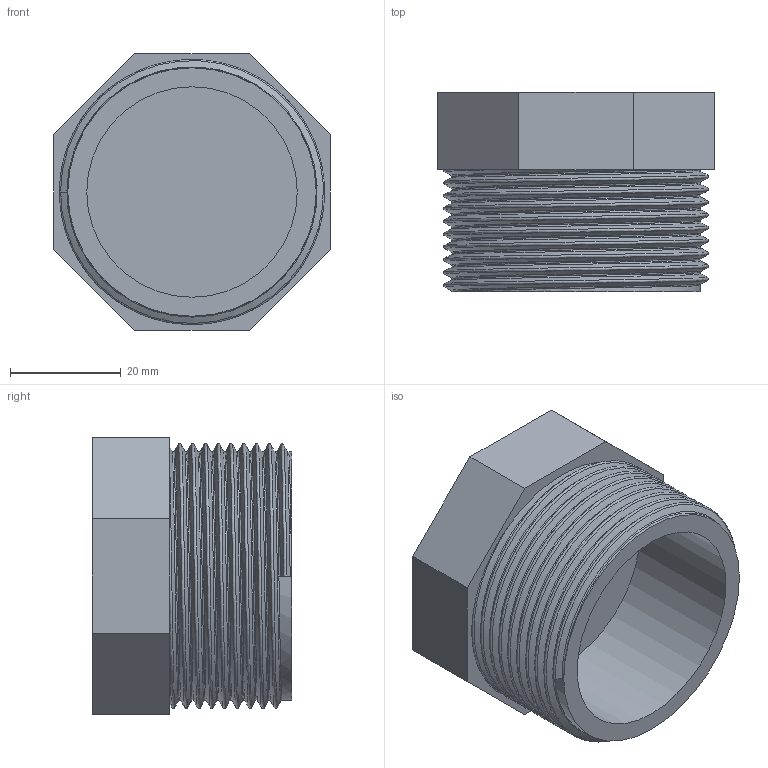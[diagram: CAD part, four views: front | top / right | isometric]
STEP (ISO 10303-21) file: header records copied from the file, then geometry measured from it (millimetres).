
FILE_DESCRIPTION(/* description */ ('PVC tappo filettato BSP maschio'),/* implementation_level */ '2;1');
FILE_NAME(/* name */ 'C:\Users\POLYPIPE\Desktop\DATASET INVENTOR\LIBRERIA EFFAST\RACCORDI 3DxWEB\RER\3D_RERTAE\3D_RERTAE050F.stp',/* time_stamp */ '2018-01-19T17:18:15+01:00',/* author */ ('POLYPIPE'),/* organization */ ('Polypipe Italia s.r.l.'),/* preprocessor_version */ 'ST-DEVELOPER v16.1',/* originating_system */ 'Autodesk Inventor 2016',/* authorisation */ '');
FILE_SCHEMA (('CONFIG_CONTROL_DESIGN'));
Length unit declared in the file: millimetre
Products named in the file (1): 3D_RERTAE
Bounding box: 50 x 36 x 50 mm (x, y, z)
Volume: 41023.1 mm3; surface area: 14337.4 mm2
Topology: 1 solids, 1 shells, 20 faces, 45 edges, 29 vertices
Faces by surface type: plane 13, bspline 5, cylinder 2
Full cylindrical faces by diameter (mm): 38 x1, 44.845 x1
Entity records: 4228 total; most frequent: CARTESIAN_POINT 3789, ORIENTED_EDGE 88, DIRECTION 71, EDGE_CURVE 44, VERTEX_POINT 29, LINE 27, VECTOR 27, EDGE_LOOP 23
